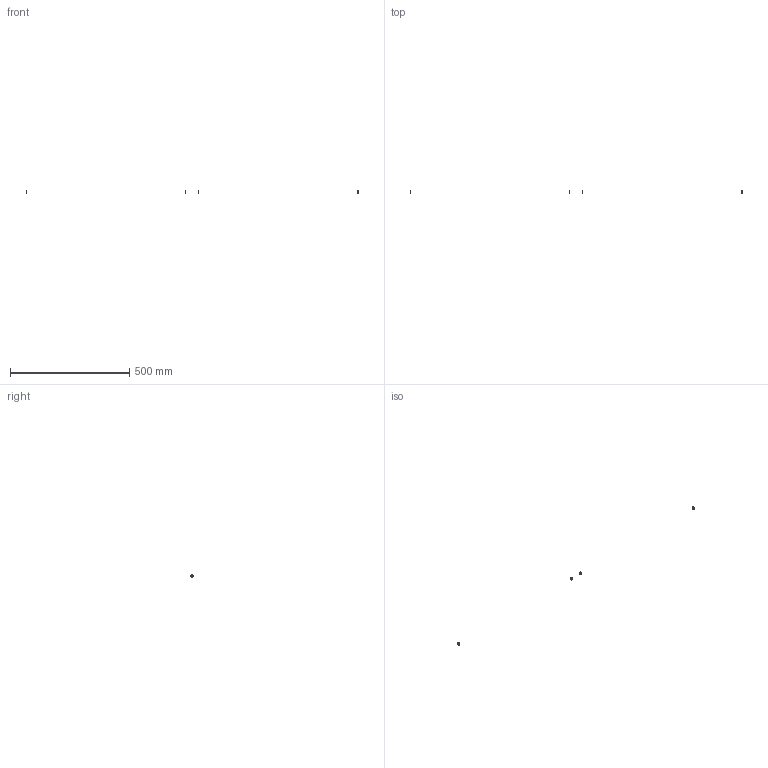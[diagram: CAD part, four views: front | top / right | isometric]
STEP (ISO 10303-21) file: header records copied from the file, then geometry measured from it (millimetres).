
FILE_DESCRIPTION(/* description */ (''),/* implementation_level */ '2;1');
FILE_NAME(/* name */ 'Y-CAFA~1',/* time_stamp */ '2014-02-14T19:43:30+01:00',/* author */ (''),/* organization */ (''),/* preprocessor_version */ 'ST-DEVELOPER v14',/* originating_system */ '',/* authorisation */ '');
FILE_SCHEMA (('AUTOMOTIVE_DESIGN'));
Length unit declared in the file: millimetre
Products named in the file (1): Document
Bounding box: 1392 x 12 x 11.99 mm (x, y, z)
Volume: 670.9 mm3; surface area: 1079.9 mm2
Topology: 4 solids, 4 shells, 56 faces, 112 edges, 64 vertices
Faces by surface type: bspline 48, plane 8
Entity records: 3373 total; most frequent: CARTESIAN_POINT 1898, B_SPLINE_CURVE_WITH_KNOTS 240, ORIENTED_EDGE 224, PCURVE 224, DEFINITIONAL_REPRESENTATION 224, SURFACE_CURVE 112, EDGE_CURVE 112, EDGE_LOOP 64
